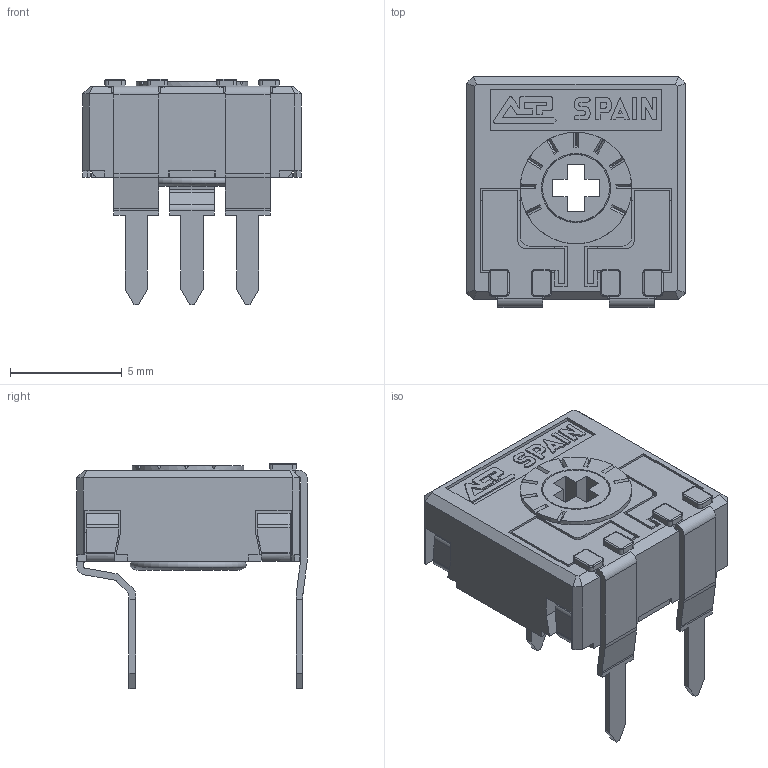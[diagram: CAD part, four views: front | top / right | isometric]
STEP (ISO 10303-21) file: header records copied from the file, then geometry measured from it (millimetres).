
FILE_DESCRIPTION(/* description */ (''),/* implementation_level */ '2;1');
FILE_NAME(/* name */ 'C:\Users\CEM\Desktop\ENVIAR\TRANSICION 3D CATALOGOS\RS9RV7,5.stp',/* time_stamp */ '2025-11-26T17:33:52+01:00',/* author */ ('CEM'),/* organization */ (''),/* preprocessor_version */ 'ST-DEVELOPER v16.13',/* originating_system */ 'Autodesk Inventor 2018',/* authorisation */ '');
FILE_SCHEMA (('AUTOMOTIVE_DESIGN { 1 0 10303 214 3 1 1 }'));
Length unit declared in the file: millimetre
Products named in the file (1): RS9RV7,5
Bounding box: 9.8 x 10.35 x 10.1 mm (x, y, z)
Volume: 248.9 mm3; surface area: 878.6 mm2
Topology: 2 solids, 2 shells, 626 faces, 1781 edges, 1144 vertices
Faces by surface type: plane 492, cylinder 99, torus 19, cone 16
Full cylindrical faces by diameter (mm): 3 x1, 3.1 x1, 4 x1, 4.8 x1, 5 x1
Entity records: 20262 total; most frequent: CARTESIAN_POINT 3583, ORIENTED_EDGE 3534, DIRECTION 3292, EDGE_CURVE 1765, LINE 1440, VECTOR 1440, VERTEX_POINT 1139, AXIS2_PLACEMENT_3D 926
